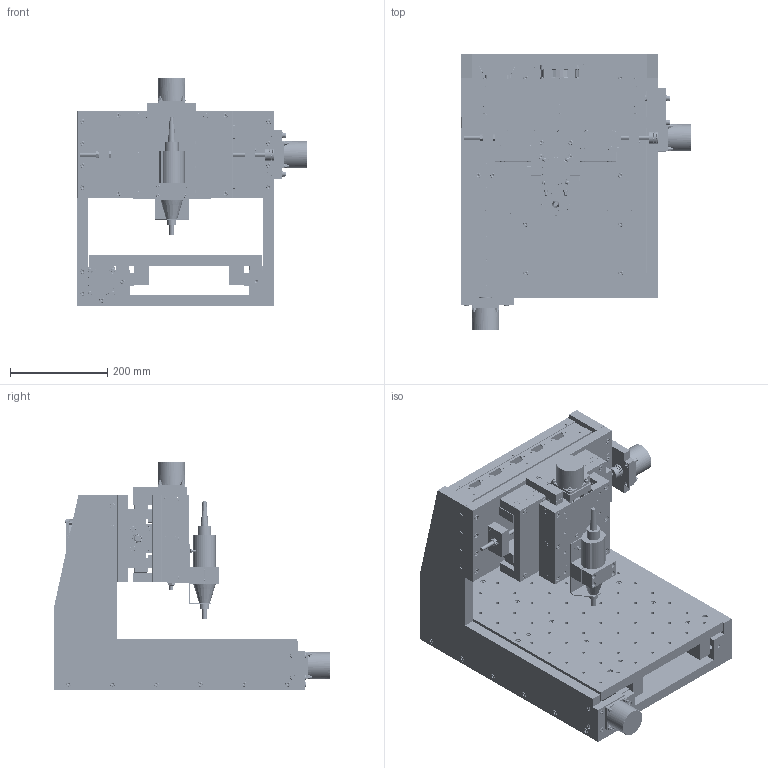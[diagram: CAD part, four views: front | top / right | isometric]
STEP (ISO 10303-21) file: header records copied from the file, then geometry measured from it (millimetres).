
FILE_DESCRIPTION((''),'2;1');
FILE_NAME('CNCFraese.stp','2011-12-25T00:00:00',('TheSmartGerman'),(''),'Autodesk Inventor','Autodesk Inventor','');
FILE_SCHEMA(('AUTOMOTIVE_DESIGN { 1 0 10303 214 1 1 1 1 }'));
Length unit declared in the file: millimetre
Products named in the file (81): CNCFraese; Grundplatte; Seitenwand_außen_rechts; Seitenwand_außen_links; Schrittmotor; Grundplatte_Motor_flansch; Grundplatte_Aufbau_30_50; Ausziehschiene_375-625_27_10; grundplatte_Kugellager_klemmung; quergewindebolzen; DIN 625 SKF 608; Grundplatte_Kugellager_Halter; DIN ISO 7049 - C-H ST2,9 x 13 - C - H; DIN 9021 3,2; Grundplatte_Gewindestange; Kupplung; Querachse_Motorträger; Querachse_Aufbau_2; Quertraeger; Querachse_Aufbau_Laufschien_oben; Querachse_Kugellagerhalter; Ausziehschiene_245-410_27_10; Querachse_Grundplatte; Querachse_Aufbau_Laufschiene; Queraschse_mutter_halter; M8_Mutter; Querachse_Mutter_Halter; z_achse_zusammenbau; Ausziehschiene_153-245_17,5_10; z_achse_motor_traeger; z_achse_auflieger_15_30; M6_Schraube; dremel; z_achse_mutter_traeger; z_achse_mutter_halter; führungs_gewindemutter; Dremelhalteblech; Dremelklemmung; Schrauben_UScheibe; DIN 125-1 A A 6,4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
Assembly tree (504 placements, depth 5):
  CNCFraese
    Grundplatte
    Seitenwand_außen_rechts
    Seitenwand_außen_links
    Schrittmotor  x2
    Grundplatte_Motor_flansch
    Grundplatte_Aufbau_30_50  x2
    Ausziehschiene_375-625_27_10  x4
    grundplatte_Kugellager_klemmung
      grundplatte_Kugellager_klemmung
      quergewindebolzen  x2
      DIN 625 SKF 608  x2
    Grundplatte_Kugellager_Halter
      Grundplatte_Kugellager_Halter
      quergewindebolzen  x2
      DIN ISO 7049 - C-H ST2,9 x 13 - C - H
      DIN 9021 3,2
      DIN 625 SKF 608
    Grundplatte_Gewindestange
    Kupplung  x2
    Querachse_Motorträger
    Querachse_Aufbau_2
      Quertraeger
      Querachse_Aufbau_Laufschien_oben  x3
      Querachse_Kugellagerhalter
        Querachse_Kugellagerhalter
        quergewindebolzen  x2
        DIN 625 SKF 608
        DIN 9021 3,2
        DIN ISO 7049 - C-H ST2,9 x 13 - C - H
      Ausziehschiene_245-410_27_10  x4
      Querachse_Grundplatte
      Querachse_Aufbau_Laufschiene
      Queraschse_mutter_halter
        M8_Mutter
        Querachse_Mutter_Halter
        quergewindebolzen  x2
      z_achse_zusammenbau
        Ausziehschiene_153-245_17,5_10  x4
        z_achse_motor_traeger
        z_achse_auflieger_15_30  x4
        M6_Schraube  x6
        quergewindebolzen  x12
        dremel
        z_achse_mutter_traeger
          z_achse_mutter_halter
          quergewindebolzen  x2
          führungs_gewindemutter
        Dremelhalteblech
        Dremelklemmung
        Schrauben_UScheibe  x2
          DIN 125-1 A A 6,4
          DIN EN ISO 4762 M6 x 35
        DIN 125-1 A A 4,3  x4
        DIN EN ISO 4762 M4 x 30  x4
        DIN EN ISO 4762 M5 x 30  x2
        DIN 125-1 A A 5,3  x6
        DIN EN ISO 4762 M5 x 25  x2
        DIN 934 - ersetzt durch DIN EN 24032/28673/28674 M5  x2
      z_achse_kugellager_klemmung
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Bounding box: 471.6 x 567.44 x 467.6 mm (x, y, z)
Volume: 21185783.8 mm3; surface area: 3552043.4 mm2
Topology: 569 solids, 569 shells, 11256 faces, 27332 edges, 17725 vertices
Faces by surface type: plane 6142, bspline 2502, cylinder 1319, cone 633, torus 603, sphere 57
Full cylindrical faces by diameter (mm): 2.9 x3, 3 x10, 3.175 x24, 3.2 x3, 3.5 x8, 3.82 x24, 4 x4, 4.3 x16, 5 x19, 5.3 x30, 6 x102, 6.3 x70, 6.4 x98, 6.604 x24, 6.9 x8, 7 x4, 8 x13, 8.5 x16, 9 x11, 10 x232, 12 x98, 12.48 x18, 15 x2, 17 x70, 17.52 x18, 19 x1, 22 x9, 25 x9, 28 x1, 35 x1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
Entity records: 122001 total; most frequent: CARTESIAN_POINT 47848, DIRECTION 13784, ORIENTED_EDGE 13630, EDGE_CURVE 6815, EDGE_LOOP 5224, VERTEX_POINT 4991, AXIS2_PLACEMENT_3D 4931, VECTOR 3922
